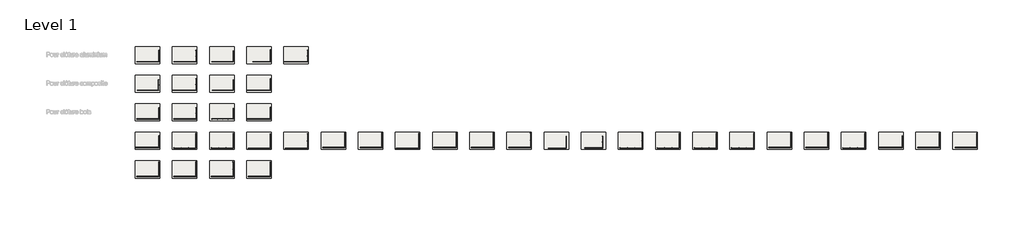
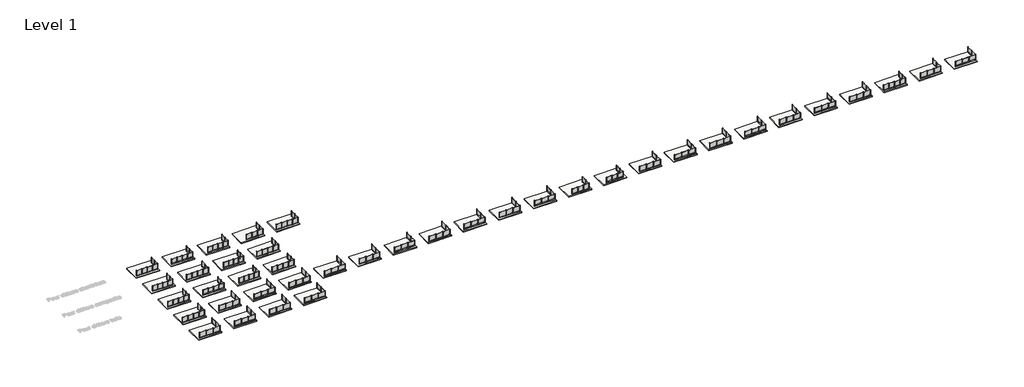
# One storey, part 1 of 4: 40 railings, 40 slabs.
"""IFC4 building model written with IfcOpenShell, lengths in millimetres."""

from ifc_helpers import new_model, si_unit, frame, origin, place, context, project, spatial, polyline, outline, extrude, transform, mapped, element, save
from components import railing_83dd5124, railing_9046152f, railing_7dd5a5e9, railing_ebe56180, railing_63ea84c1, railing_7e02b309, railing_8aa74cb8, railing_17b641a1, railing_9e67e6d5, railing_e092d7fd, railing_f03016a0, railing_ca63146d, railing_afe94d72, railing_4c07a863, railing_acacbf47, railing_0396a7d8, railing_180d6d8c, railing_d7e8f1aa, railing_cda7871a, railing_a1924e57, railing_6adef51b, railing_bce27265, railing_d98ad82b, railing_06f1b06c, railing_e2239c7c, railing_0f99474d, railing_4b589889, railing_d92462b5, railing_1c09333d, railing_d93a8585, railing_a2a33f3b, railing_f42f2c7d, railing_a6160d3a, railing_939d0e2e, railing_e329078b, railing_174873eb, railing_a63429a0, railing_5a82572c, railing_a0a83704, railing_6d3b28d1

model = new_model("IFC4")

# Units and contexts
model_context = context("Model", 3, world=origin())
ifc_project = project(units=[si_unit("LENGTHUNIT", "METRE", prefix="MILLI")], contexts=[model_context])

# Site, building, storey
site = spatial("IfcSite", under=ifc_project)
building = spatial("IfcBuilding", under=site)
storey = spatial("IfcBuildingStorey", under=building, Name="Level 1", Elevation=0.0)

# Railings
placement = place(None, origin())
railing_shape = railing_83dd5124(model_context)
element("IfcRailing", 1, ObjectType="Mehat - Railing - Plaque de Soubassement - Ardoise pour clôture rigide - 250x25x3.8 cm", at=placement, inside=storey, context=model_context, shape_type="MappedRepresentation", body=[
    mapped(railing_shape, transform((0.0, 0.0, 0.0), x_axis=(1.0, 0.0, 0.0), y_axis=(0.0, 1.0, 0.0), z_axis=(0.0, 0.0, 1.0))),
])
railing_2_shape = railing_9046152f(model_context)
element("IfcRailing", 2, ObjectType="Mehat - Railing - Plaque de Soubassement - Ardoise pour clôture rigide - 250x40x3.8 cm", at=placement, inside=storey, context=model_context, shape_type="MappedRepresentation", body=[
    mapped(railing_2_shape, transform((0.0, 0.0, 0.0), x_axis=(1.0, 0.0, 0.0), y_axis=(0.0, 1.0, 0.0), z_axis=(0.0, 0.0, 1.0))),
])
railing_3_shape = railing_7dd5a5e9(model_context)
element("IfcRailing", 3, ObjectType="Mehat - Railing - Plaque de Soubassement - Ardoise pour clôture rigide - 251x25x3.5 cm", at=placement, inside=storey, context=model_context, shape_type="MappedRepresentation", body=[
    mapped(railing_3_shape, transform((0.0, 0.0, 0.0), x_axis=(1.0, 0.0, 0.0), y_axis=(0.0, 1.0, 0.0), z_axis=(0.0, 0.0, 1.0))),
])
railing_4_shape = railing_ebe56180(model_context)
element("IfcRailing", 4, ObjectType="Mehat - Railing - Plaque de Soubassement - Ardoise pour clôture rigide - 251x40x3.5 cm", at=placement, inside=storey, context=model_context, shape_type="MappedRepresentation", body=[
    mapped(railing_4_shape, transform((0.0, 0.0, 0.0), x_axis=(1.0, 0.0, 0.0), y_axis=(0.0, 1.0, 0.0), z_axis=(0.0, 0.0, 1.0))),
])
railing_5_shape = railing_63ea84c1(model_context)
element("IfcRailing", 5, ObjectType="Mehat - Railing - Plaque de Soubassement - Classique pour clôture rigide - 200x25x1.7 cm", at=placement, inside=storey, context=model_context, shape_type="MappedRepresentation", body=[
    mapped(railing_5_shape, transform((0.0, 0.0, 0.0), x_axis=(1.0, 0.0, 0.0), y_axis=(0.0, 1.0, 0.0), z_axis=(0.0, 0.0, 1.0))),
])
railing_6_shape = railing_7e02b309(model_context)
element("IfcRailing", 6, ObjectType="Mehat - Railing - Plaque de Soubassement - Classique pour clôture rigide - 250x25x1.7 cm", at=placement, inside=storey, context=model_context, shape_type="MappedRepresentation", body=[
    mapped(railing_6_shape, transform((0.0, 0.0, 0.0), x_axis=(1.0, 0.0, 0.0), y_axis=(0.0, 1.0, 0.0), z_axis=(0.0, 0.0, 1.0))),
])
railing_7_shape = railing_8aa74cb8(model_context)
element("IfcRailing", 7, ObjectType="Mehat - Railing - Plaque de Soubassement - Classique pour clôture rigide - 250x50x1.7 cm", at=placement, inside=storey, context=model_context, shape_type="MappedRepresentation", body=[
    mapped(railing_7_shape, transform((0.0, 0.0, 0.0), x_axis=(1.0, 0.0, 0.0), y_axis=(0.0, 1.0, 0.0), z_axis=(0.0, 0.0, 1.0))),
])
railing_8_shape = railing_17b641a1(model_context)
element("IfcRailing", 8, ObjectType="Mehat - Railing - Plaque de Soubassement - Classique pour clôture rigide - 251.5x25x2.5/3.5 cm", at=placement, inside=storey, context=model_context, shape_type="MappedRepresentation", body=[
    mapped(railing_8_shape, transform((0.0, 0.0, 0.0), x_axis=(1.0, 0.0, 0.0), y_axis=(0.0, 1.0, 0.0), z_axis=(0.0, 0.0, 1.0))),
])
railing_9_shape = railing_9e67e6d5(model_context)
element("IfcRailing", 9, ObjectType="Mehat - Railing - Plaque de Soubassement - Classique pour clôture rigide - 251.5x50x3.5 cm", at=placement, inside=storey, context=model_context, shape_type="MappedRepresentation", body=[
    mapped(railing_9_shape, transform((0.0, 0.0, 0.0), x_axis=(1.0, 0.0, 0.0), y_axis=(0.0, 1.0, 0.0), z_axis=(0.0, 0.0, 1.0))),
])
railing_10_shape = railing_e092d7fd(model_context)
element("IfcRailing", 10, ObjectType="Mehat - Railing - Plaque de Soubassement - Classique pour clôture rigide - 247.5x25x4 cm", at=placement, inside=storey, context=model_context, shape_type="MappedRepresentation", body=[
    mapped(railing_10_shape, transform((0.0, 0.0, 0.0), x_axis=(1.0, 0.0, 0.0), y_axis=(0.0, 1.0, 0.0), z_axis=(0.0, 0.0, 1.0))),
])
railing_11_shape = railing_f03016a0(model_context)
element("IfcRailing", 11, ObjectType="Mehat - Railing - Plaque de Soubassement - Classique pour clôture rigide - 247.5x50x4 cm", at=placement, inside=storey, context=model_context, shape_type="MappedRepresentation", body=[
    mapped(railing_11_shape, transform((0.0, 0.0, 0.0), x_axis=(1.0, 0.0, 0.0), y_axis=(0.0, 1.0, 0.0), z_axis=(0.0, 0.0, 1.0))),
])
railing_12_shape = railing_ca63146d(model_context)
element("IfcRailing", 12, ObjectType="Mehat - Railing - Plaque de Soubassement - Classique pour clôture rigide - 254x25x3.4 cm", at=placement, inside=storey, context=model_context, shape_type="MappedRepresentation", body=[
    mapped(railing_12_shape, transform((0.0, 0.0, 0.0), x_axis=(1.0, 0.0, 0.0), y_axis=(0.0, 1.0, 0.0), z_axis=(0.0, 0.0, 1.0))),
])
railing_13_shape = railing_afe94d72(model_context)
element("IfcRailing", 13, ObjectType="Mehat - Railing - Plaque de Soubassement - Classique pour clôture rigide - 254x50x3.4 cm", at=placement, inside=storey, context=model_context, shape_type="MappedRepresentation", body=[
    mapped(railing_13_shape, transform((0.0, 0.0, 0.0), x_axis=(1.0, 0.0, 0.0), y_axis=(0.0, 1.0, 0.0), z_axis=(0.0, 0.0, 1.0))),
])
railing_14_shape = railing_4c07a863(model_context)
element("IfcRailing", 14, ObjectType="Mehat - Railing - Plaque de Soubassement - Classique pour clôture rigide - 250x25x4 cm", at=placement, inside=storey, context=model_context, shape_type="MappedRepresentation", body=[
    mapped(railing_14_shape, transform((0.0, 0.0, 0.0), x_axis=(1.0, 0.0, 0.0), y_axis=(0.0, 1.0, 0.0), z_axis=(0.0, 0.0, 1.0))),
])
railing_15_shape = railing_acacbf47(model_context)
element("IfcRailing", 15, ObjectType="Mehat - Railing - Plaque de Soubassement - Classique pour clôture rigide - 250x50x3.5/4 cm", at=placement, inside=storey, context=model_context, shape_type="MappedRepresentation", body=[
    mapped(railing_15_shape, transform((0.0, 0.0, 0.0), x_axis=(1.0, 0.0, 0.0), y_axis=(0.0, 1.0, 0.0), z_axis=(0.0, 0.0, 1.0))),
])
railing_16_shape = railing_0396a7d8(model_context)
element("IfcRailing", 16, ObjectType="Mehat - Railing - Plaque de Soubassement - Classique pour clôture rigide - 202.5x25x3.8 cm", at=placement, inside=storey, context=model_context, shape_type="MappedRepresentation", body=[
    mapped(railing_16_shape, transform((0.0, 0.0, 0.0), x_axis=(1.0, 0.0, 0.0), y_axis=(0.0, 1.0, 0.0), z_axis=(0.0, 0.0, 1.0))),
])
railing_17_shape = railing_180d6d8c(model_context)
element("IfcRailing", 17, ObjectType="Mehat - Railing - Plaque de Soubassement - Classique pour clôture rigide - 202.5x50x3.8 cm", at=placement, inside=storey, context=model_context, shape_type="MappedRepresentation", body=[
    mapped(railing_17_shape, transform((0.0, 0.0, 0.0), x_axis=(1.0, 0.0, 0.0), y_axis=(0.0, 1.0, 0.0), z_axis=(0.0, 0.0, 1.0))),
])
railing_18_shape = railing_d7e8f1aa(model_context)
element("IfcRailing", 18, ObjectType="Mehat - Railing - Plaque de Soubassement - Classique pour clôture rigide - 252.5x25x3.8 cm", at=placement, inside=storey, context=model_context, shape_type="MappedRepresentation", body=[
    mapped(railing_18_shape, transform((0.0, 0.0, 0.0), x_axis=(1.0, 0.0, 0.0), y_axis=(0.0, 1.0, 0.0), z_axis=(0.0, 0.0, 1.0))),
])
railing_19_shape = railing_cda7871a(model_context)
element("IfcRailing", 19, ObjectType="Mehat - Railing - Plaque de Soubassement - Classique pour clôture rigide - 251x25x4.3/3.8 cm", at=placement, inside=storey, context=model_context, shape_type="MappedRepresentation", body=[
    mapped(railing_19_shape, transform((0.0, 0.0, 0.0), x_axis=(1.0, 0.0, 0.0), y_axis=(0.0, 1.0, 0.0), z_axis=(0.0, 0.0, 1.0))),
])
railing_20_shape = railing_a1924e57(model_context)
element("IfcRailing", 20, ObjectType="Mehat - Railing - Plaque de Soubassement - Classique pour clôture rigide - 251x50x4.3/3.8 cm", at=placement, inside=storey, context=model_context, shape_type="MappedRepresentation", body=[
    mapped(railing_20_shape, transform((0.0, 0.0, 0.0), x_axis=(1.0, 0.0, 0.0), y_axis=(0.0, 1.0, 0.0), z_axis=(0.0, 0.0, 1.0))),
])
railing_21_shape = railing_6adef51b(model_context)
element("IfcRailing", 21, ObjectType="Mehat - Railing - Plaque de Soubassement - Classique pour clôture rigide - 253.5x25x4.3/3.8 cm", at=placement, inside=storey, context=model_context, shape_type="MappedRepresentation", body=[
    mapped(railing_21_shape, transform((0.0, 0.0, 0.0), x_axis=(1.0, 0.0, 0.0), y_axis=(0.0, 1.0, 0.0), z_axis=(0.0, 0.0, 1.0))),
])
railing_22_shape = railing_bce27265(model_context)
element("IfcRailing", 22, ObjectType="Mehat - Railing - Plaque de Soubassement - Classique pour clôture rigide - 200x25x3.5 cm", at=placement, inside=storey, context=model_context, shape_type="MappedRepresentation", body=[
    mapped(railing_22_shape, transform((0.0, 0.0, 0.0), x_axis=(1.0, 0.0, 0.0), y_axis=(0.0, 1.0, 0.0), z_axis=(0.0, 0.0, 1.0))),
])
railing_23_shape = railing_d98ad82b(model_context)
element("IfcRailing", 23, ObjectType="Mehat - Railing - Plaque de Soubassement - Classique pour clôture rigide - 245x25x3.8 cm", at=placement, inside=storey, context=model_context, shape_type="MappedRepresentation", body=[
    mapped(railing_23_shape, transform((0.0, 0.0, 0.0), x_axis=(1.0, 0.0, 0.0), y_axis=(0.0, 1.0, 0.0), z_axis=(0.0, 0.0, 1.0))),
])
railing_24_shape = railing_06f1b06c(model_context)
element("IfcRailing", 24, ObjectType="Mehat - Railing - Plaque de Soubassement - Pour clôture bois - 192x25x3.5/2 cm", at=placement, inside=storey, context=model_context, shape_type="MappedRepresentation", body=[
    mapped(railing_24_shape, transform((0.0, 0.0, 0.0), x_axis=(1.0, 0.0, 0.0), y_axis=(0.0, 1.0, 0.0), z_axis=(0.0, 0.0, 1.0))),
])
railing_25_shape = railing_e2239c7c(model_context)
element("IfcRailing", 25, ObjectType="Mehat - Railing - Plaque de Soubassement - Pour clôture composite - 180.5x20x3.5/1.7 cm", at=placement, inside=storey, context=model_context, shape_type="MappedRepresentation", body=[
    mapped(railing_25_shape, transform((0.0, 0.0, 0.0), x_axis=(1.0, 0.0, 0.0), y_axis=(0.0, 1.0, 0.0), z_axis=(0.0, 0.0, 1.0))),
])
railing_26_shape = railing_0f99474d(model_context)
element("IfcRailing", 26, ObjectType="Mehat - Railing - Plaque de Soubassement - Pour clôture composite - 197x20x3.5/2.3 cm", at=placement, inside=storey, context=model_context, shape_type="MappedRepresentation", body=[
    mapped(railing_26_shape, transform((0.0, 0.0, 0.0), x_axis=(1.0, 0.0, 0.0), y_axis=(0.0, 1.0, 0.0), z_axis=(0.0, 0.0, 1.0))),
])
railing_27_shape = railing_4b589889(model_context)
element("IfcRailing", 27, ObjectType="Mehat - Railing - Plaque de Soubassement - Pour clôture composite - 178x20x3.5/2 cm", at=placement, inside=storey, context=model_context, shape_type="MappedRepresentation", body=[
    mapped(railing_27_shape, transform((0.0, 0.0, 0.0), x_axis=(1.0, 0.0, 0.0), y_axis=(0.0, 1.0, 0.0), z_axis=(0.0, 0.0, 1.0))),
])
railing_28_shape = railing_d92462b5(model_context)
element("IfcRailing", 28, ObjectType="Mehat - Railing - Plaque de Soubassement - Pour clôture aluminium - 192x25x3.5/2 cm", at=placement, inside=storey, context=model_context, shape_type="MappedRepresentation", body=[
    mapped(railing_28_shape, transform((0.0, 0.0, 0.0), x_axis=(1.0, 0.0, 0.0), y_axis=(0.0, 1.0, 0.0), z_axis=(0.0, 0.0, 1.0))),
])
railing_29_shape = railing_1c09333d(model_context)
element("IfcRailing", 29, ObjectType="Mehat - Railing - Plaque de Soubassement - Pour clôture aluminium - 192x50x3.5/2 cm", at=placement, inside=storey, context=model_context, shape_type="MappedRepresentation", body=[
    mapped(railing_29_shape, transform((0.0, 0.0, 0.0), x_axis=(1.0, 0.0, 0.0), y_axis=(0.0, 1.0, 0.0), z_axis=(0.0, 0.0, 1.0))),
])
railing_30_shape = railing_d93a8585(model_context)
element("IfcRailing", 30, ObjectType="Mehat - Railing - Plaque de Soubassement - Pour clôture aluminium - 180.5x20x3.5/1.7 cm", at=placement, inside=storey, context=model_context, shape_type="MappedRepresentation", body=[
    mapped(railing_30_shape, transform((0.0, 0.0, 0.0), x_axis=(1.0, 0.0, 0.0), y_axis=(0.0, 1.0, 0.0), z_axis=(0.0, 0.0, 1.0))),
])
railing_31_shape = railing_a2a33f3b(model_context)
element("IfcRailing", 31, ObjectType="Mehat - Railing - Plaque de Soubassement - Pour clôture aluminium - 200x25x1.7 cm", at=placement, inside=storey, context=model_context, shape_type="MappedRepresentation", body=[
    mapped(railing_31_shape, transform((0.0, 0.0, 0.0), x_axis=(1.0, 0.0, 0.0), y_axis=(0.0, 1.0, 0.0), z_axis=(0.0, 0.0, 1.0))),
])
railing_32_shape = railing_f42f2c7d(model_context)
element("IfcRailing", 32, ObjectType="Mehat - Railing - Plaque de Soubassement - Classique pour clôture rigide - 252.5x50x3.8 cm", at=placement, inside=storey, context=model_context, shape_type="MappedRepresentation", body=[
    mapped(railing_32_shape, transform((0.0, 0.0, 0.0), x_axis=(1.0, 0.0, 0.0), y_axis=(0.0, 1.0, 0.0), z_axis=(0.0, 0.0, 1.0))),
])
railing_33_shape = railing_a6160d3a(model_context)
element("IfcRailing", 33, ObjectType="Mehat - Railing - Plaque de Soubassement - Classique pour clôture rigide - 252.5x25x3.8/1.9 cm", at=placement, inside=storey, context=model_context, shape_type="MappedRepresentation", body=[
    mapped(railing_33_shape, transform((0.0, 0.0, 0.0), x_axis=(1.0, 0.0, 0.0), y_axis=(0.0, 1.0, 0.0), z_axis=(0.0, 0.0, 1.0))),
])
railing_34_shape = railing_939d0e2e(model_context)
element("IfcRailing", 34, ObjectType="Mehat - Railing - Plaque de Soubassement - Classique pour clôture rigide - 252.5x50x3.8/1.9 cm", at=placement, inside=storey, context=model_context, shape_type="MappedRepresentation", body=[
    mapped(railing_34_shape, transform((0.0, 0.0, 0.0), x_axis=(1.0, 0.0, 0.0), y_axis=(0.0, 1.0, 0.0), z_axis=(0.0, 0.0, 1.0))),
])
railing_35_shape = railing_e329078b(model_context)
element("IfcRailing", 35, ObjectType="Mehat - Railing - Plaque de Soubassement - Classique pour clôture rigide - 245x50x3.8 cm", at=placement, inside=storey, context=model_context, shape_type="MappedRepresentation", body=[
    mapped(railing_35_shape, transform((0.0, 0.0, 0.0), x_axis=(1.0, 0.0, 0.0), y_axis=(0.0, 1.0, 0.0), z_axis=(0.0, 0.0, 1.0))),
])
railing_36_shape = railing_174873eb(model_context)
element("IfcRailing", 36, ObjectType="Mehat - Railing - Plaque de Soubassement - Pour clôture bois - 192x50x3.5/2 cm", at=placement, inside=storey, context=model_context, shape_type="MappedRepresentation", body=[
    mapped(railing_36_shape, transform((0.0, 0.0, 0.0), x_axis=(1.0, 0.0, 0.0), y_axis=(0.0, 1.0, 0.0), z_axis=(0.0, 0.0, 1.0))),
])
railing_37_shape = railing_a63429a0(model_context)
element("IfcRailing", 37, ObjectType="Mehat - Railing - Plaque de Soubassement - Pour clôture bois - 180.5x20x3.5/1.7 cm", at=placement, inside=storey, context=model_context, shape_type="MappedRepresentation", body=[
    mapped(railing_37_shape, transform((0.0, 0.0, 0.0), x_axis=(1.0, 0.0, 0.0), y_axis=(0.0, 1.0, 0.0), z_axis=(0.0, 0.0, 1.0))),
])
railing_38_shape = railing_5a82572c(model_context)
element("IfcRailing", 38, ObjectType="Mehat - Railing - Plaque de Soubassement - Pour clôture aluminium - 196x20x3.5/1.8 cm", at=placement, inside=storey, context=model_context, shape_type="MappedRepresentation", body=[
    mapped(railing_38_shape, transform((0.0, 0.0, 0.0), x_axis=(1.0, 0.0, 0.0), y_axis=(0.0, 1.0, 0.0), z_axis=(0.0, 0.0, 1.0))),
])
railing_39_shape = railing_a0a83704(model_context)
element("IfcRailing", 39, ObjectType="Mehat - Railing - Plaque de Soubassement - Pour clôture composite - 196x20x3.5/1.8 cm", at=placement, inside=storey, context=model_context, shape_type="MappedRepresentation", body=[
    mapped(railing_39_shape, transform((0.0, 0.0, 0.0), x_axis=(1.0, 0.0, 0.0), y_axis=(0.0, 1.0, 0.0), z_axis=(0.0, 0.0, 1.0))),
])
railing_40_shape = railing_6d3b28d1(model_context)
element("IfcRailing", 40, ObjectType="Mehat - Railing - Plaque de Soubassement - Pour clôture bois - 200x25x3.5 cm", at=placement, inside=storey, context=model_context, shape_type="MappedRepresentation", body=[
    mapped(railing_40_shape, transform((0.0, 0.0, 0.0), x_axis=(1.0, 0.0, 0.0), y_axis=(0.0, 1.0, 0.0), z_axis=(0.0, 0.0, 1.0))),
])

# Slabs
element("IfcSlab", 41, ObjectType="Generic - 12\"", at=placement, inside=storey, context=model_context, shape_type="SweptSolid", body=[
    extrude(outline(polyline([(-39832.4659655, -18089.2258514), (-39832.4659655, -24089.2258514), (-48432.4659655, -24089.2258514), (-48432.4659655, -18089.2258514), (-39832.4659655, -18089.2258514)])), frame((0.0, 0.0, -304.8), z_axis=(0.0, 0.0, 1.0), x_axis=(1.0, 0.0, 0.0)), (0.0, 0.0, 1.0), 304.8),
])
element("IfcSlab", 42, ObjectType="Generic - 12\"", at=placement, inside=storey, context=model_context, shape_type="SweptSolid", body=[
    extrude(outline(polyline([(-26832.4659655, -18089.2258514), (-26832.4659655, -24089.2258514), (-35432.4659655, -24089.2258514), (-35432.4659655, -18089.2258514), (-26832.4659655, -18089.2258514)])), frame((0.0, 0.0, -304.8), z_axis=(0.0, 0.0, 1.0), x_axis=(1.0, 0.0, 0.0)), (0.0, 0.0, 1.0), 304.8),
])
element("IfcSlab", 43, ObjectType="Generic - 12\"", at=placement, inside=storey, context=model_context, shape_type="SweptSolid", body=[
    extrude(outline(polyline([(-13832.4659655, -18089.2258514), (-13832.4659655, -24089.2258514), (-22432.4659655, -24089.2258514), (-22432.4659655, -18089.2258514), (-13832.4659655, -18089.2258514)])), frame((0.0, 0.0, -304.8), z_axis=(0.0, 0.0, 1.0), x_axis=(1.0, 0.0, 0.0)), (0.0, 0.0, 1.0), 304.8),
])
element("IfcSlab", 44, ObjectType="Generic - 12\"", at=placement, inside=storey, context=model_context, shape_type="SweptSolid", body=[
    extrude(outline(polyline([(-832.4659655, -18089.2258514), (-832.4659655, -24089.2258514), (-9432.4659655, -24089.2258514), (-9432.4659655, -18089.2258514), (-832.4659655, -18089.2258514)])), frame((0.0, 0.0, -304.8), z_axis=(0.0, 0.0, 1.0), x_axis=(1.0, 0.0, 0.0)), (0.0, 0.0, 1.0), 304.8),
])
element("IfcSlab", 45, ObjectType="Generic - 12\"", at=placement, inside=storey, context=model_context, shape_type="SweptSolid", body=[
    extrude(outline(polyline([(-39832.4659655, -8089.2258514), (-39832.4659655, -14089.2258514), (-48432.4659655, -14089.2258514), (-48432.4659655, -8089.2258514), (-39832.4659655, -8089.2258514)])), frame((0.0, 0.0, -304.8), z_axis=(0.0, 0.0, 1.0), x_axis=(1.0, 0.0, 0.0)), (0.0, 0.0, 1.0), 304.8),
])
element("IfcSlab", 46, ObjectType="Generic - 12\"", at=placement, inside=storey, context=model_context, shape_type="SweptSolid", body=[
    extrude(outline(polyline([(-26832.4659655, -8089.2258514), (-26832.4659655, -14089.2258514), (-35432.4659655, -14089.2258514), (-35432.4659655, -8089.2258514), (-26832.4659655, -8089.2258514)])), frame((0.0, 0.0, -304.8), z_axis=(0.0, 0.0, 1.0), x_axis=(1.0, 0.0, 0.0)), (0.0, 0.0, 1.0), 304.8),
])
element("IfcSlab", 47, ObjectType="Generic - 12\"", at=placement, inside=storey, context=model_context, shape_type="SweptSolid", body=[
    extrude(outline(polyline([(-13832.4659655, -8089.2258514), (-13832.4659655, -14089.2258514), (-22432.4659655, -14089.2258514), (-22432.4659655, -8089.2258514), (-13832.4659655, -8089.2258514)])), frame((0.0, 0.0, -304.8), z_axis=(0.0, 0.0, 1.0), x_axis=(1.0, 0.0, 0.0)), (0.0, 0.0, 1.0), 304.8),
])
element("IfcSlab", 48, ObjectType="Generic - 12\"", at=placement, inside=storey, context=model_context, shape_type="SweptSolid", body=[
    extrude(outline(polyline([(-832.4659655, -8089.2258514), (-832.4659655, -14089.2258514), (-9432.4659655, -14089.2258514), (-9432.4659655, -8089.2258514), (-832.4659655, -8089.2258514)])), frame((0.0, 0.0, -304.8), z_axis=(0.0, 0.0, 1.0), x_axis=(1.0, 0.0, 0.0)), (0.0, 0.0, 1.0), 304.8),
])
element("IfcSlab", 49, ObjectType="Generic - 12\"", at=placement, inside=storey, context=model_context, shape_type="SweptSolid", body=[
    extrude(outline(polyline([(12167.5340345, -8089.2258514), (12167.5340345, -14089.2258514), (3567.5340345, -14089.2258514), (3567.5340345, -8089.2258514), (12167.5340345, -8089.2258514)])), frame((0.0, 0.0, -304.8), z_axis=(0.0, 0.0, 1.0), x_axis=(1.0, 0.0, 0.0)), (0.0, 0.0, 1.0), 304.8),
])
element("IfcSlab", 50, ObjectType="Generic - 12\"", at=placement, inside=storey, context=model_context, shape_type="SweptSolid", body=[
    extrude(outline(polyline([(25167.5340345, -8089.2258514), (25167.5340345, -14089.2258514), (16567.5340345, -14089.2258514), (16567.5340345, -8089.2258514), (25167.5340345, -8089.2258514)])), frame((0.0, 0.0, -304.8), z_axis=(0.0, 0.0, 1.0), x_axis=(1.0, 0.0, 0.0)), (0.0, 0.0, 1.0), 304.8),
])
element("IfcSlab", 51, ObjectType="Generic - 12\"", at=placement, inside=storey, context=model_context, shape_type="SweptSolid", body=[
    extrude(outline(polyline([(38167.5340345, -8089.2258514), (38167.5340345, -14089.2258514), (29567.5340345, -14089.2258514), (29567.5340345, -8089.2258514), (38167.5340345, -8089.2258514)])), frame((0.0, 0.0, -304.8), z_axis=(0.0, 0.0, 1.0), x_axis=(1.0, 0.0, 0.0)), (0.0, 0.0, 1.0), 304.8),
])
element("IfcSlab", 52, ObjectType="Generic - 12\"", at=placement, inside=storey, context=model_context, shape_type="SweptSolid", body=[
    extrude(outline(polyline([(51167.5340345, -8089.2258514), (51167.5340345, -14089.2258514), (42567.5340345, -14089.2258514), (42567.5340345, -8089.2258514), (51167.5340345, -8089.2258514)])), frame((0.0, 0.0, -304.8), z_axis=(0.0, 0.0, 1.0), x_axis=(1.0, 0.0, 0.0)), (0.0, 0.0, 1.0), 304.8),
])
element("IfcSlab", 53, ObjectType="Generic - 12\"", at=placement, inside=storey, context=model_context, shape_type="SweptSolid", body=[
    extrude(outline(polyline([(64167.5340345, -8089.2258514), (64167.5340345, -14089.2258514), (55567.5340345, -14089.2258514), (55567.5340345, -8089.2258514), (64167.5340345, -8089.2258514)])), frame((0.0, 0.0, -304.8), z_axis=(0.0, 0.0, 1.0), x_axis=(1.0, 0.0, 0.0)), (0.0, 0.0, 1.0), 304.8),
])
element("IfcSlab", 54, ObjectType="Generic - 12\"", at=placement, inside=storey, context=model_context, shape_type="SweptSolid", body=[
    extrude(outline(polyline([(77167.5340345, -8089.2258514), (77167.5340345, -14089.2258514), (68567.5340345, -14089.2258514), (68567.5340345, -8089.2258514), (77167.5340345, -8089.2258514)])), frame((0.0, 0.0, -304.8), z_axis=(0.0, 0.0, 1.0), x_axis=(1.0, 0.0, 0.0)), (0.0, 0.0, 1.0), 304.8),
])
element("IfcSlab", 55, ObjectType="Generic - 12\"", at=placement, inside=storey, context=model_context, shape_type="SweptSolid", body=[
    extrude(outline(polyline([(90167.5340345, -8089.2258514), (90167.5340345, -14089.2258514), (81567.5340345, -14089.2258514), (81567.5340345, -8089.2258514), (90167.5340345, -8089.2258514)])), frame((0.0, 0.0, -304.8), z_axis=(0.0, 0.0, 1.0), x_axis=(1.0, 0.0, 0.0)), (0.0, 0.0, 1.0), 304.8),
])
element("IfcSlab", 56, ObjectType="Generic - 12\"", at=placement, inside=storey, context=model_context, shape_type="SweptSolid", body=[
    extrude(outline(polyline([(103167.5340345, -8089.2258514), (103167.5340345, -14089.2258514), (94567.5340345, -14089.2258514), (94567.5340345, -8089.2258514), (103167.5340345, -8089.2258514)])), frame((0.0, 0.0, -304.8), z_axis=(0.0, 0.0, 1.0), x_axis=(1.0, 0.0, 0.0)), (0.0, 0.0, 1.0), 304.8),
])
element("IfcSlab", 57, ObjectType="Generic - 12\"", at=placement, inside=storey, context=model_context, shape_type="SweptSolid", body=[
    extrude(outline(polyline([(116167.5340345, -8089.2258514), (116167.5340345, -14089.2258514), (107567.5340345, -14089.2258514), (107567.5340345, -8089.2258514), (116167.5340345, -8089.2258514)])), frame((0.0, 0.0, -304.8), z_axis=(0.0, 0.0, 1.0), x_axis=(1.0, 0.0, 0.0)), (0.0, 0.0, 1.0), 304.8),
])
element("IfcSlab", 58, ObjectType="Generic - 12\"", at=placement, inside=storey, context=model_context, shape_type="SweptSolid", body=[
    extrude(outline(polyline([(129167.5340345, -8089.2258514), (129167.5340345, -14089.2258514), (120567.5340345, -14089.2258514), (120567.5340345, -8089.2258514), (129167.5340345, -8089.2258514)])), frame((0.0, 0.0, -304.8), z_axis=(0.0, 0.0, 1.0), x_axis=(1.0, 0.0, 0.0)), (0.0, 0.0, 1.0), 304.8),
])
element("IfcSlab", 59, ObjectType="Generic - 12\"", at=placement, inside=storey, context=model_context, shape_type="SweptSolid", body=[
    extrude(outline(polyline([(142167.5340345, -8089.2258514), (142167.5340345, -14089.2258514), (133567.5340345, -14089.2258514), (133567.5340345, -8089.2258514), (142167.5340345, -8089.2258514)])), frame((0.0, 0.0, -304.8), z_axis=(0.0, 0.0, 1.0), x_axis=(1.0, 0.0, 0.0)), (0.0, 0.0, 1.0), 304.8),
])
element("IfcSlab", 60, ObjectType="Generic - 12\"", at=placement, inside=storey, context=model_context, shape_type="SweptSolid", body=[
    extrude(outline(polyline([(155167.5340345, -8089.2258514), (155167.5340345, -14089.2258514), (146567.5340345, -14089.2258514), (146567.5340345, -8089.2258514), (155167.5340345, -8089.2258514)])), frame((0.0, 0.0, -304.8), z_axis=(0.0, 0.0, 1.0), x_axis=(1.0, 0.0, 0.0)), (0.0, 0.0, 1.0), 304.8),
])
element("IfcSlab", 61, ObjectType="Generic - 12\"", at=placement, inside=storey, context=model_context, shape_type="SweptSolid", body=[
    extrude(outline(polyline([(168167.5340345, -8089.2258514), (168167.5340345, -14089.2258514), (159567.5340345, -14089.2258514), (159567.5340345, -8089.2258514), (168167.5340345, -8089.2258514)])), frame((0.0, 0.0, -304.8), z_axis=(0.0, 0.0, 1.0), x_axis=(1.0, 0.0, 0.0)), (0.0, 0.0, 1.0), 304.8),
])
element("IfcSlab", 62, ObjectType="Generic - 12\"", at=placement, inside=storey, context=model_context, shape_type="SweptSolid", body=[
    extrude(outline(polyline([(181167.5340345, -8089.2258514), (181167.5340345, -14089.2258514), (172567.5340345, -14089.2258514), (172567.5340345, -8089.2258514), (181167.5340345, -8089.2258514)])), frame((0.0, 0.0, -304.8), z_axis=(0.0, 0.0, 1.0), x_axis=(1.0, 0.0, 0.0)), (0.0, 0.0, 1.0), 304.8),
])
element("IfcSlab", 63, ObjectType="Generic - 12\"", at=placement, inside=storey, context=model_context, shape_type="SweptSolid", body=[
    extrude(outline(polyline([(194167.5340345, -8089.2258514), (194167.5340345, -14089.2258514), (185567.5340345, -14089.2258514), (185567.5340345, -8089.2258514), (194167.5340345, -8089.2258514)])), frame((0.0, 0.0, -304.8), z_axis=(0.0, 0.0, 1.0), x_axis=(1.0, 0.0, 0.0)), (0.0, 0.0, 1.0), 304.8),
])
element("IfcSlab", 64, ObjectType="Generic - 12\"", at=placement, inside=storey, context=model_context, shape_type="SweptSolid", body=[
    extrude(outline(polyline([(207167.5340345, -8089.2258514), (207167.5340345, -14089.2258514), (198567.5340345, -14089.2258514), (198567.5340345, -8089.2258514), (207167.5340345, -8089.2258514)])), frame((0.0, 0.0, -304.8), z_axis=(0.0, 0.0, 1.0), x_axis=(1.0, 0.0, 0.0)), (0.0, 0.0, 1.0), 304.8),
])
element("IfcSlab", 65, ObjectType="Generic - 12\"", at=placement, inside=storey, context=model_context, shape_type="SweptSolid", body=[
    extrude(outline(polyline([(220167.5340345, -8089.2258514), (220167.5340345, -14089.2258514), (211567.5340345, -14089.2258514), (211567.5340345, -8089.2258514), (220167.5340345, -8089.2258514)])), frame((0.0, 0.0, -304.8), z_axis=(0.0, 0.0, 1.0), x_axis=(1.0, 0.0, 0.0)), (0.0, 0.0, 1.0), 304.8),
])
element("IfcSlab", 66, ObjectType="Generic - 12\"", at=placement, inside=storey, context=model_context, shape_type="SweptSolid", body=[
    extrude(outline(polyline([(233167.5340345, -8089.2258514), (233167.5340345, -14089.2258514), (224567.5340345, -14089.2258514), (224567.5340345, -8089.2258514), (233167.5340345, -8089.2258514)])), frame((0.0, 0.0, -304.8), z_axis=(0.0, 0.0, 1.0), x_axis=(1.0, 0.0, 0.0)), (0.0, 0.0, 1.0), 304.8),
])
element("IfcSlab", 67, ObjectType="Generic - 12\"", at=placement, inside=storey, context=model_context, shape_type="SweptSolid", body=[
    extrude(outline(polyline([(246167.5340345, -8089.2258514), (246167.5340345, -14089.2258514), (237567.5340345, -14089.2258514), (237567.5340345, -8089.2258514), (246167.5340345, -8089.2258514)])), frame((0.0, 0.0, -304.8), z_axis=(0.0, 0.0, 1.0), x_axis=(1.0, 0.0, 0.0)), (0.0, 0.0, 1.0), 304.8),
])
element("IfcSlab", 68, ObjectType="Generic - 12\"", at=placement, inside=storey, context=model_context, shape_type="SweptSolid", body=[
    extrude(outline(polyline([(-48432.4659655, 1910.7741486), (-39832.4659655, 1910.7741486), (-39832.4659655, -4089.2258514), (-48432.4659655, -4089.2258514), (-48432.4659655, 1910.7741486)])), frame((0.0, 0.0, -304.8), z_axis=(0.0, 0.0, 1.0), x_axis=(1.0, 0.0, 0.0)), (0.0, 0.0, 1.0), 304.8),
])
element("IfcSlab", 69, ObjectType="Generic - 12\"", at=placement, inside=storey, context=model_context, shape_type="SweptSolid", body=[
    extrude(outline(polyline([(-26832.4659655, 1910.7741486), (-26832.4659655, -4089.2258514), (-35432.4659655, -4089.2258514), (-35432.4659655, 1910.7741486), (-26832.4659655, 1910.7741486)])), frame((0.0, 0.0, -304.8), z_axis=(0.0, 0.0, 1.0), x_axis=(1.0, 0.0, 0.0)), (0.0, 0.0, 1.0), 304.8),
])
element("IfcSlab", 70, ObjectType="Generic - 12\"", at=placement, inside=storey, context=model_context, shape_type="SweptSolid", body=[
    extrude(outline(polyline([(-13832.4659655, 1910.7741486), (-13832.4659655, -4089.2258514), (-22432.4659655, -4089.2258514), (-22432.4659655, 1910.7741486), (-13832.4659655, 1910.7741486)])), frame((0.0, 0.0, -304.8), z_axis=(0.0, 0.0, 1.0), x_axis=(1.0, 0.0, 0.0)), (0.0, 0.0, 1.0), 304.8),
])
element("IfcSlab", 71, ObjectType="Generic - 12\"", at=placement, inside=storey, context=model_context, shape_type="SweptSolid", body=[
    extrude(outline(polyline([(-39832.4659655, 11910.7741486), (-39832.4659655, 5910.7741486), (-48432.4659655, 5910.7741486), (-48432.4659655, 11910.7741486), (-39832.4659655, 11910.7741486)])), frame((0.0, 0.0, -304.8), z_axis=(0.0, 0.0, 1.0), x_axis=(1.0, 0.0, 0.0)), (0.0, 0.0, 1.0), 304.8),
])
element("IfcSlab", 72, ObjectType="Generic - 12\"", at=placement, inside=storey, context=model_context, shape_type="SweptSolid", body=[
    extrude(outline(polyline([(-26832.4659655, 11910.7741486), (-26832.4659655, 5910.7741486), (-35432.4659655, 5910.7741486), (-35432.4659655, 11910.7741486), (-26832.4659655, 11910.7741486)])), frame((0.0, 0.0, -304.8), z_axis=(0.0, 0.0, 1.0), x_axis=(1.0, 0.0, 0.0)), (0.0, 0.0, 1.0), 304.8),
])
element("IfcSlab", 73, ObjectType="Generic - 12\"", at=placement, inside=storey, context=model_context, shape_type="SweptSolid", body=[
    extrude(outline(polyline([(-13832.4659655, 11910.7741486), (-13832.4659655, 5910.7741486), (-22432.4659655, 5910.7741486), (-22432.4659655, 11910.7741486), (-13832.4659655, 11910.7741486)])), frame((0.0, 0.0, -304.8), z_axis=(0.0, 0.0, 1.0), x_axis=(1.0, 0.0, 0.0)), (0.0, 0.0, 1.0), 304.8),
])
element("IfcSlab", 74, ObjectType="Generic - 12\"", at=placement, inside=storey, context=model_context, shape_type="SweptSolid", body=[
    extrude(outline(polyline([(-39832.4659655, 21910.7741486), (-39832.4659655, 15910.7741486), (-48432.4659655, 15910.7741486), (-48432.4659655, 21910.7741486), (-39832.4659655, 21910.7741486)])), frame((0.0, 0.0, -304.8), z_axis=(0.0, 0.0, 1.0), x_axis=(1.0, 0.0, 0.0)), (0.0, 0.0, 1.0), 304.8),
])
element("IfcSlab", 75, ObjectType="Generic - 12\"", at=placement, inside=storey, context=model_context, shape_type="SweptSolid", body=[
    extrude(outline(polyline([(-26832.4659655, 21910.7741486), (-26832.4659655, 15910.7741486), (-35432.4659655, 15910.7741486), (-35432.4659655, 21910.7741486), (-26832.4659655, 21910.7741486)])), frame((0.0, 0.0, -304.8), z_axis=(0.0, 0.0, 1.0), x_axis=(1.0, 0.0, 0.0)), (0.0, 0.0, 1.0), 304.8),
])
element("IfcSlab", 76, ObjectType="Generic - 12\"", at=placement, inside=storey, context=model_context, shape_type="SweptSolid", body=[
    extrude(outline(polyline([(-13832.4659655, 21910.7741486), (-13832.4659655, 15910.7741486), (-22432.4659655, 15910.7741486), (-22432.4659655, 21910.7741486), (-13832.4659655, 21910.7741486)])), frame((0.0, 0.0, -304.8), z_axis=(0.0, 0.0, 1.0), x_axis=(1.0, 0.0, 0.0)), (0.0, 0.0, 1.0), 304.8),
])
element("IfcSlab", 77, ObjectType="Generic - 12\"", at=placement, inside=storey, context=model_context, shape_type="SweptSolid", body=[
    extrude(outline(polyline([(-832.4659655, 21910.7741486), (-832.4659655, 15910.7741486), (-9432.4659655, 15910.7741486), (-9432.4659655, 21910.7741486), (-832.4659655, 21910.7741486)])), frame((0.0, 0.0, -304.8), z_axis=(0.0, 0.0, 1.0), x_axis=(1.0, 0.0, 0.0)), (0.0, 0.0, 1.0), 304.8),
])
element("IfcSlab", 78, ObjectType="Generic - 12\"", at=placement, inside=storey, context=model_context, shape_type="SweptSolid", body=[
    extrude(outline(polyline([(12167.5340345, 21910.7741486), (12167.5340345, 15910.7741486), (3567.5340345, 15910.7741486), (3567.5340345, 21910.7741486), (12167.5340345, 21910.7741486)])), frame((0.0, 0.0, -304.8), z_axis=(0.0, 0.0, 1.0), x_axis=(1.0, 0.0, 0.0)), (0.0, 0.0, 1.0), 304.8),
])
element("IfcSlab", 79, ObjectType="Generic - 12\"", at=placement, inside=storey, context=model_context, shape_type="SweptSolid", body=[
    extrude(outline(polyline([(-832.4659655, 11910.7741486), (-832.4659655, 5910.7741486), (-9432.4659655, 5910.7741486), (-9432.4659655, 11910.7741486), (-832.4659655, 11910.7741486)])), frame((0.0, 0.0, -304.8), z_axis=(0.0, 0.0, 1.0), x_axis=(1.0, 0.0, 0.0)), (0.0, 0.0, 1.0), 304.8),
])
element("IfcSlab", 80, ObjectType="Generic - 12\"", at=placement, inside=storey, context=model_context, shape_type="SweptSolid", body=[
    extrude(outline(polyline([(-832.4659655, 1910.7741486), (-832.4659655, -4089.2258514), (-9432.4659655, -4089.2258514), (-9432.4659655, 1910.7741486), (-832.4659655, 1910.7741486)])), frame((0.0, 0.0, -304.8), z_axis=(0.0, 0.0, 1.0), x_axis=(1.0, 0.0, 0.0)), (0.0, 0.0, 1.0), 304.8),
])

save(model, "model.ifc")
